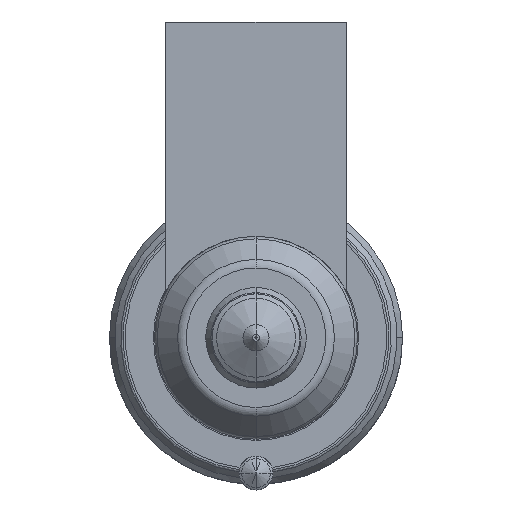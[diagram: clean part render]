
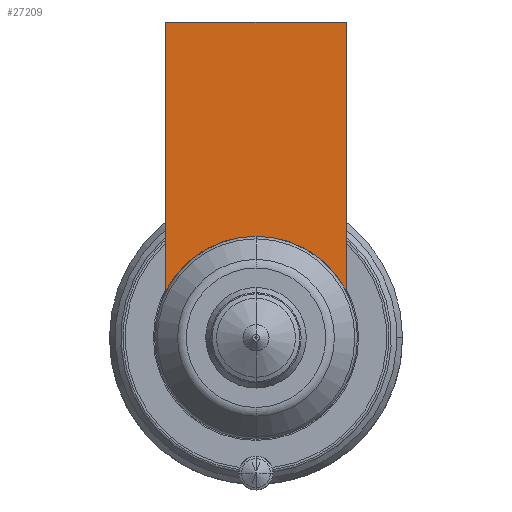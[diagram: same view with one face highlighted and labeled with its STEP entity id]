
A CAD part, front view. The second image highlights one B-rep face of the part: STEP entity #27209.
In plain terms, the highlighted planar face has unit normal (0, -1, 0).
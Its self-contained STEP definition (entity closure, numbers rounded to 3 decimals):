
#26398=CARTESIAN_POINT('',(0.,-54.,0.));
#26399=DIRECTION('',(0.,-1.,0.));
#26400=DIRECTION('',(0.,0.,1.));
#26401=AXIS2_PLACEMENT_3D('',#26398,#26399,#26400);
#26407=DIRECTION('',(1.,0.,0.));
#26408=VECTOR('',#26407,16.);
#26409=CARTESIAN_POINT('',(-8.,-54.,28.));
#26410=LINE('',#26409,#26408);
#26414=CARTESIAN_POINT('',(0.,-54.,0.));
#26415=DIRECTION('',(0.,-1.,0.));
#26416=DIRECTION('',(0.889,0.,0.458));
#26417=AXIS2_PLACEMENT_3D('',#26414,#26415,#26416);
#26567=DIRECTION('',(0.,0.,-1.));
#26568=VECTOR('',#26567,23.877);
#26569=CARTESIAN_POINT('',(8.,-54.,28.));
#26570=LINE('',#26569,#26568);
#26630=DIRECTION('',(0.,0.,-1.));
#26631=VECTOR('',#26630,23.877);
#26632=CARTESIAN_POINT('',(-8.,-54.,28.));
#26633=LINE('',#26632,#26631);
#27167=CARTESIAN_POINT('',(-8.,-54.,28.));
#27168=VERTEX_POINT('',#27167);
#27173=CARTESIAN_POINT('',(8.,-54.,28.));
#27174=VERTEX_POINT('',#27173);
#27179=CARTESIAN_POINT('',(0.,-54.,9.));
#27180=CARTESIAN_POINT('',(-8.,-54.,4.123));
#27181=VERTEX_POINT('',#27179);
#27182=VERTEX_POINT('',#27180);
#27183=CARTESIAN_POINT('',(8.,-54.,4.123));
#27184=VERTEX_POINT('',#27183);
#27192=CARTESIAN_POINT('',(0.,-54.,9.));
#27193=DIRECTION('',(0.,1.,0.));
#27194=DIRECTION('',(0.,0.,-1.));
#27195=AXIS2_PLACEMENT_3D('',#27192,#27193,#27194);
#27196=PLANE('',#27195);
#27198=ORIENTED_EDGE('',*,*,#27197,.T.);
#27200=ORIENTED_EDGE('',*,*,#27199,.F.);
#27202=ORIENTED_EDGE('',*,*,#27201,.T.);
#27204=ORIENTED_EDGE('',*,*,#27203,.T.);
#27206=ORIENTED_EDGE('',*,*,#27205,.T.);
#27207=EDGE_LOOP('',(#27198,#27200,#27202,#27204,#27206));
#27208=FACE_OUTER_BOUND('',#27207,.F.);
#27209=ADVANCED_FACE('',(#27208),#27196,.F.);
#26402=CIRCLE('',#26401,9.);
#26418=CIRCLE('',#26417,9.);
#27197=EDGE_CURVE('',#27181,#27182,#26402,.T.);
#27199=EDGE_CURVE('',#27168,#27182,#26633,.T.);
#27201=EDGE_CURVE('',#27168,#27174,#26410,.T.);
#27203=EDGE_CURVE('',#27174,#27184,#26570,.T.);
#27205=EDGE_CURVE('',#27184,#27181,#26418,.T.);
